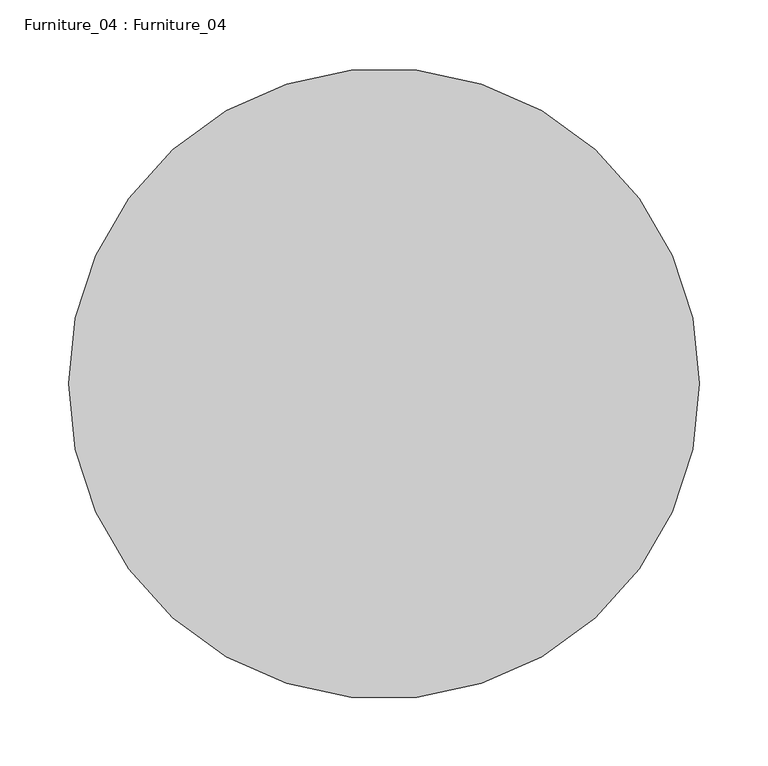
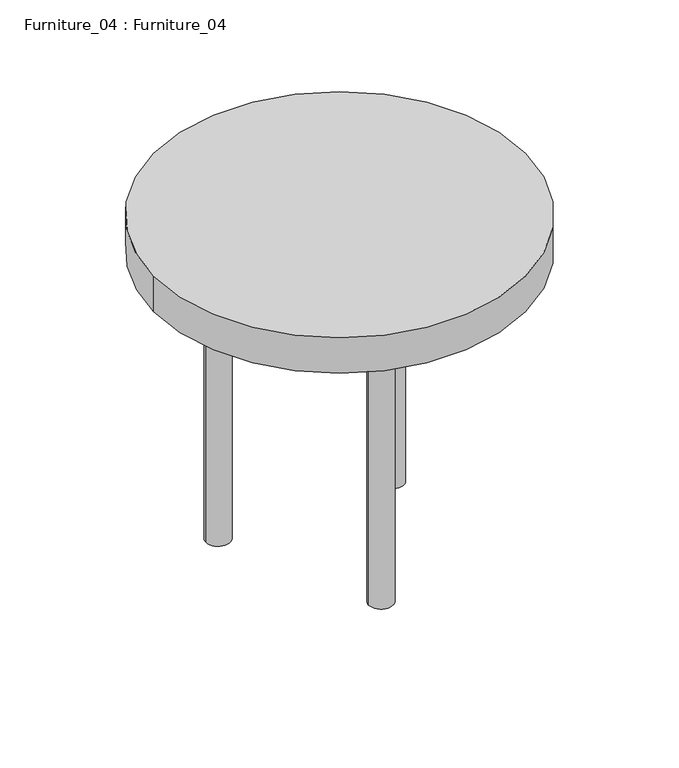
"""IFC4 building model written with IfcOpenShell, lengths in millimetres: furniture geometry, Furniture_04 : Furniture_04."""

from ifc_helpers import new_model, si_unit, point, frame, frame_2d, origin, place, context, project, spatial, circle_curve, trimmed, segment, composite_curve, outline, extrude, source, transform, mapped, element, save


def furniture_04_furniture_04_b9c663bc(model_context):
    return source(origin(), model_context, "Body", "SweptSolid", [
        extrude(outline(composite_curve([segment(trimmed(circle_curve(frame_2d((-4768.0572344, 22916.0856731)), 15.0), [point((-4783.0572344, 22916.0856731))], [point((-4753.0572344, 22916.0856731))], False, "CARTESIAN"), True, "CONTINUOUS"), segment(trimmed(circle_curve(frame_2d((-4768.0572344, 22916.0856731)), 15.0), [point((-4753.0572344, 22916.0856731))], [point((-4783.0572344, 22916.0856731))], False, "CARTESIAN"), True, "CONTINUOUS")], self_intersect=False)), frame((0.0, 0.0, 8080.0), z_axis=(0.0, 0.0, 1.0), x_axis=(1.0, 0.0, 0.0)), (0.0, 0.0, 1.0), 396.908865),
        extrude(outline(composite_curve([segment(trimmed(circle_curve(frame_2d((-4553.0572344, 22916.0856731)), 15.0), [point((-4568.0572344, 22916.0856731))], [point((-4538.0572344, 22916.0856731))], False, "CARTESIAN"), True, "CONTINUOUS"), segment(trimmed(circle_curve(frame_2d((-4553.0572344, 22916.0856731)), 15.0), [point((-4538.0572344, 22916.0856731))], [point((-4568.0572344, 22916.0856731))], False, "CARTESIAN"), True, "CONTINUOUS")], self_intersect=False)), frame((0.0, 0.0, 8080.0), z_axis=(0.0, 0.0, 1.0), x_axis=(1.0, 0.0, 0.0)), (0.0, 0.0, 1.0), 396.908865),
        extrude(outline(composite_curve([segment(trimmed(circle_curve(frame_2d((-4675.6010173, 22727.3847953)), 15.0), [point((-4690.6010173, 22727.3847953))], [point((-4660.6010173, 22727.3847953))], False, "CARTESIAN"), True, "CONTINUOUS"), segment(trimmed(circle_curve(frame_2d((-4675.6010173, 22727.3847953)), 15.0), [point((-4660.6010173, 22727.3847953))], [point((-4690.6010173, 22727.3847953))], False, "CARTESIAN"), True, "CONTINUOUS")], self_intersect=False)), frame((0.0, 0.0, 8080.0), z_axis=(0.0, 0.0, 1.0), x_axis=(1.0, 0.0, 0.0)), (0.0, 0.0, 1.0), 396.908865),
        extrude(outline(composite_curve([segment(trimmed(circle_curve(frame_2d((-4669.5659696, 22826.0057414)), 230.0), [point((-4899.5659696, 22826.0057414))], [point((-4439.5659696, 22826.0057414))], False, "CARTESIAN"), True, "CONTINUOUS"), segment(trimmed(circle_curve(frame_2d((-4669.5659696, 22826.0057414)), 230.0), [point((-4439.5659696, 22826.0057414))], [point((-4899.5659696, 22826.0057414))], False, "CARTESIAN"), True, "CONTINUOUS")], self_intersect=False)), frame((0.0, 0.0, 8476.908865), z_axis=(0.0, 0.0, 1.0), x_axis=(1.0, 0.0, 0.0)), (0.0, 0.0, 1.0), 46.3508602),
    ])


if __name__ == "__main__":
    model = new_model("IFC4")
    model_context = context("Model", 3, world=origin())
    ifc_project = project(units=[si_unit("LENGTHUNIT", "METRE", prefix="MILLI")], contexts=[model_context])
    site = spatial("IfcSite", under=ifc_project)
    building = spatial("IfcBuilding", under=site)
    placement = place(None, origin())
    furniture_04_furniture_04_shape = furniture_04_furniture_04_b9c663bc(model_context)
    element("IfcFurniture", 1, ObjectType="Furniture_04 : Furniture_04", at=placement, inside=building, context=model_context, shape_type="MappedRepresentation", body=[
        mapped(furniture_04_furniture_04_shape, transform((0.0, 0.0, 0.0), x_axis=(1.0, 0.0, 0.0), y_axis=(0.0, 1.0, 0.0), z_axis=(0.0, 0.0, 1.0))),
    ])
    save(model, "model.ifc")
